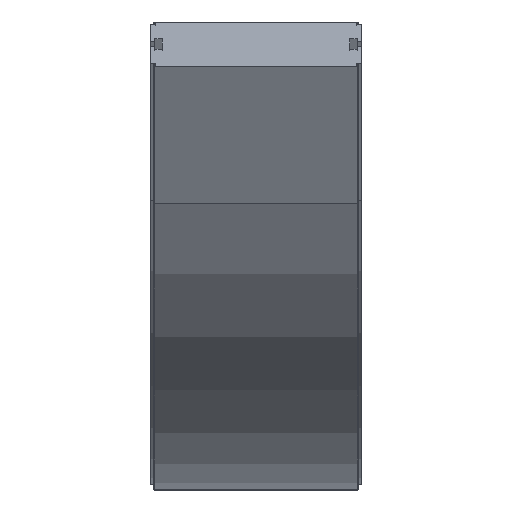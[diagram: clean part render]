
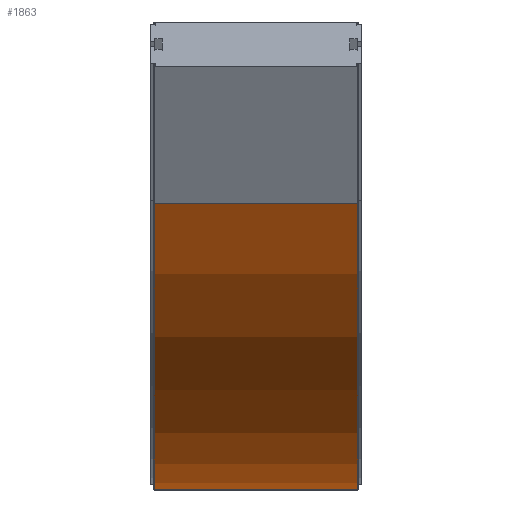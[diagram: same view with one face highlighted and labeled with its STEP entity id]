
A CAD part, top view. The second image highlights one B-rep face of the part: STEP entity #1863.
In plain terms, the highlighted cylindrical face has radius 542 mm (diameter 1084 mm), a partial arc.
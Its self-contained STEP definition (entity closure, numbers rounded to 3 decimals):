
#29 = EDGE_LOOP ( 'NONE', ( #2484, #2466, #2603, #1011 ) ) ;
#61 = EDGE_CURVE ( 'NONE', #816, #220, #2677, .T. ) ;
#156 = EDGE_CURVE ( 'NONE', #220, #2336, #2932, .T. ) ;
#188 = FACE_OUTER_BOUND ( 'NONE', #29, .T. ) ;
#220 = VERTEX_POINT ( 'NONE', #1918 ) ;
#439 = CARTESIAN_POINT ( 'NONE',  ( -96.65, 229., 619.386 ) ) ;
#616 = DIRECTION ( 'NONE',  ( -1., 0., 0. ) ) ;
#725 = DIRECTION ( 'NONE',  ( -1., 0., 0. ) ) ;
#816 = VERTEX_POINT ( 'NONE', #1687 ) ;
#919 = CARTESIAN_POINT ( 'NONE',  ( -96.65, -42., 150. ) ) ;
#1000 = LINE ( 'NONE', #2131, #1980 ) ;
#1011 = ORIENTED_EDGE ( 'NONE', *, *, #2755, .F. ) ;
#1141 = DIRECTION ( 'NONE',  ( -1., 0., 0. ) ) ;
#1376 = VECTOR ( 'NONE', #725, 1000. ) ;
#1441 = CYLINDRICAL_SURFACE ( 'NONE', #2127, 542. ) ;
#1647 = DIRECTION ( 'NONE',  ( 0., 0., 1. ) ) ;
#1687 = CARTESIAN_POINT ( 'NONE',  ( 96.65, -42., 150. ) ) ;
#1735 = CIRCLE ( 'NONE', #2447, 542. ) ;
#1754 = CARTESIAN_POINT ( 'NONE',  ( -96.65, 500., 150. ) ) ;
#1863 = ADVANCED_FACE ( 'NONE', ( #188 ), #1441, .T. ) ;
#1918 = CARTESIAN_POINT ( 'NONE',  ( 96.65, 229., 619.386 ) ) ;
#1980 = VECTOR ( 'NONE', #2350, 1000. ) ;
#2127 = AXIS2_PLACEMENT_3D ( 'NONE', #2507, #616, #1647 ) ;
#2131 = CARTESIAN_POINT ( 'NONE',  ( -96.65, -42., 150. ) ) ;
#2156 = DIRECTION ( 'NONE',  ( 0., 0., 1. ) ) ;
#2188 = CARTESIAN_POINT ( 'NONE',  ( -96.65, 229., 619.386 ) ) ;
#2196 = DIRECTION ( 'NONE',  ( -1., 0., 0. ) ) ;
#2242 = VERTEX_POINT ( 'NONE', #919 ) ;
#2336 = VERTEX_POINT ( 'NONE', #2188 ) ;
#2350 = DIRECTION ( 'NONE',  ( -1., 0., 0. ) ) ;
#2447 = AXIS2_PLACEMENT_3D ( 'NONE', #1754, #2196, #2156 ) ;
#2466 = ORIENTED_EDGE ( 'NONE', *, *, #61, .T. ) ;
#2484 = ORIENTED_EDGE ( 'NONE', *, *, #2966, .F. ) ;
#2507 = CARTESIAN_POINT ( 'NONE',  ( 0., 500., 150. ) ) ;
#2603 = ORIENTED_EDGE ( 'NONE', *, *, #156, .T. ) ;
#2677 = CIRCLE ( 'NONE', #3087, 542. ) ;
#2755 = EDGE_CURVE ( 'NONE', #2242, #2336, #1735, .T. ) ;
#2932 = LINE ( 'NONE', #439, #1376 ) ;
#2966 = EDGE_CURVE ( 'NONE', #816, #2242, #1000, .T. ) ;
#3047 = DIRECTION ( 'NONE',  ( 0., 0., 1. ) ) ;
#3084 = CARTESIAN_POINT ( 'NONE',  ( 96.65, 500., 150. ) ) ;
#3087 = AXIS2_PLACEMENT_3D ( 'NONE', #3084, #1141, #3047 ) ;
